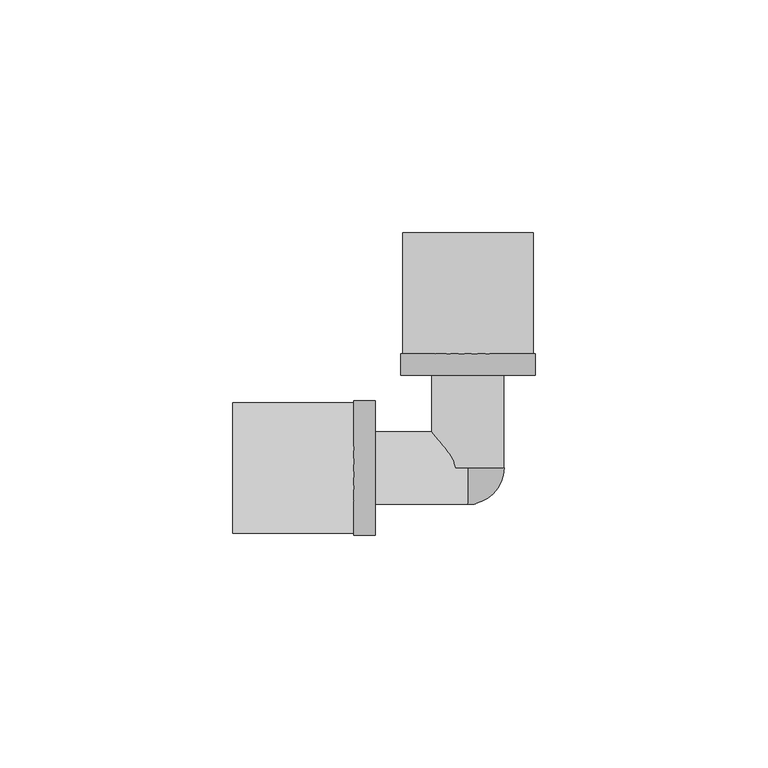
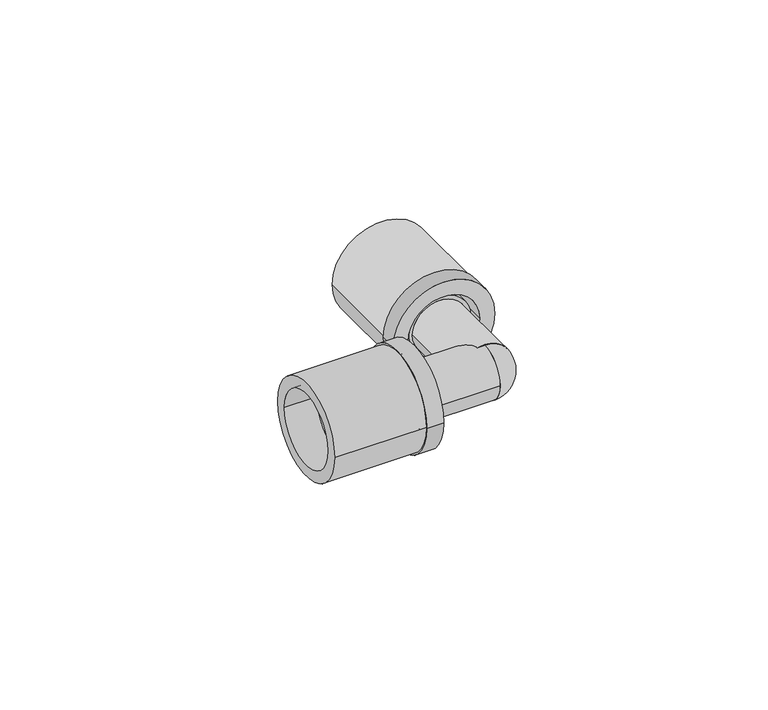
"""IFC4 building model written with IfcOpenShell, lengths in millimetres: pipe fitting geometry, FASTLOC_Corner LX : FSL C LX CZ."""

from ifc_helpers import new_model, si_unit, point, frame, origin, origin_2d, place, context, project, spatial, polyline, circle_curve, ellipse_curve, trimmed, segment, composite_curve, outline, extrude, source, transform, mapped, element, save
from ifc_brep_helpers import plane_surface, cylinder_surface, revolved_surface, advanced_brep


def pipe_fitting_e4b23f8c(model_context):
    return source(origin(), model_context, "Body", "SolidModel", [
        extrude(outline(composite_curve([segment(trimmed(circle_curve(origin_2d(), 14.0), [point((0.0, 14.0))], [point((0.0, -14.0))], False, "CARTESIAN"), True, "CONTINUOUS"), segment(trimmed(circle_curve(origin_2d(), 14.0), [point((0.0, -14.0))], [point((0.0, 14.0))], False, "CARTESIAN"), True, "CONTINUOUS")], self_intersect=False), holes=[composite_curve([segment(trimmed(circle_curve(origin_2d(), 10.7), [point((0.0, 10.7))], [point((0.0, -10.7))], True, "CARTESIAN"), True, "CONTINUOUS"), segment(trimmed(circle_curve(origin_2d(), 10.7), [point((0.0, -10.7))], [point((0.0, 10.7))], True, "CARTESIAN"), True, "CONTINUOUS")], self_intersect=False)]), frame((0.0, 24.6, 0.0), z_axis=(0.0, 1.0, 0.0), x_axis=(0.0, 0.0, 1.0)), (0.0, 0.0, 1.0), 26.0),
        advanced_brep(
        [(-14.5, 24.6, 0.0), (14.5, 24.6, 0.0), (14.5, 19.9, 0.0), (-14.5, 19.9, 0.0), (-11.85, 41.6, 0.0), (11.85, 41.6, 0.0), (11.85, 24.6, 0.0), (-11.85, 24.6, 0.0), (-10.15, 19.9, 0.0), (10.15, 19.9, 0.0), (10.15, 41.6, 0.0), (-10.15, 41.6, 0.0)],
        [
            (0, 1, circle_curve(frame((0.0, 24.6, 0.0), z_axis=(0.0, -1.0, 0.0), x_axis=(1.0, 0.0, 0.0)), 14.5)),
            (1, 2),
            (2, 3, circle_curve(frame((0.0, 19.9, 0.0), z_axis=(0.0, 1.0, 0.0), x_axis=(1.0, 0.0, 0.0)), 14.5)),
            (3, 0),
            (4, 5, circle_curve(frame((0.0, 41.6, 0.0), z_axis=(0.0, -1.0, 0.0), x_axis=(1.0, 0.0, 0.0)), 11.85)),
            (5, 6),
            (6, 7, circle_curve(frame((0.0, 24.6, 0.0), z_axis=(0.0, 1.0, 0.0), x_axis=(1.0, 0.0, 0.0)), 11.85)),
            (7, 4),
            (8, 9, circle_curve(frame((0.0, 19.9, 0.0), z_axis=(0.0, -1.0, 0.0), x_axis=(1.0, 0.0, 0.0)), 10.15)),
            (9, 10),
            (10, 11, circle_curve(frame((0.0, 41.6, 0.0), z_axis=(0.0, 1.0, 0.0), x_axis=(1.0, 0.0, 0.0)), 10.15)),
            (11, 8),
            (1, 0, circle_curve(frame((0.0, 24.6, 0.0), z_axis=(0.0, -1.0, 0.0), x_axis=(-1.0, 0.0, 0.0)), 14.5)),
            (3, 2, circle_curve(frame((0.0, 19.9, 0.0), z_axis=(0.0, 1.0, 0.0), x_axis=(-1.0, 0.0, 0.0)), 14.5)),
            (6, 7, circle_curve(frame((0.0, 24.6, 0.0), z_axis=(0.0, -1.0, 0.0), x_axis=(-1.0, 0.0, 0.0)), 11.85)),
            (5, 4, circle_curve(frame((0.0, 41.6, 0.0), z_axis=(0.0, -1.0, 0.0), x_axis=(-1.0, 0.0, 0.0)), 11.85)),
            (10, 11, circle_curve(frame((0.0, 41.6, 0.0), z_axis=(0.0, -1.0, 0.0), x_axis=(-1.0, 0.0, 0.0)), 10.15)),
            (9, 8, circle_curve(frame((0.0, 19.9, 0.0), z_axis=(0.0, -1.0, 0.0), x_axis=(-1.0, 0.0, 0.0)), 10.15)),
        ],
        [
            cylinder_surface(frame((0.0, 19.9, 0.0), z_axis=(0.0, 1.0, 0.0), x_axis=(1.0, 0.0, 0.0)), 14.5),
            cylinder_surface(frame((0.0, 19.9, 0.0), z_axis=(0.0, 1.0, 0.0), x_axis=(1.0, 0.0, 0.0)), 11.85),
            revolved_surface(polyline([(10.15, 41.6, 0.0), (10.15, 19.9, 0.0)]), (0.0, 19.9, 0.0), (0.0, 1.0, 0.0)),
            cylinder_surface(frame((0.0, 19.9, 0.0), z_axis=(0.0, 1.0, 0.0), x_axis=(-1.0, 0.0, 0.0)), 14.5),
            plane_surface(frame((0.0, 24.6, 0.0), z_axis=(0.0, 1.0, 0.0), x_axis=(-1.0, 0.0, 0.0))),
            cylinder_surface(frame((0.0, 19.9, 0.0), z_axis=(0.0, 1.0, 0.0), x_axis=(-1.0, 0.0, 0.0)), 11.85),
            plane_surface(frame((0.0, 41.6, 0.0), z_axis=(0.0, 1.0, 0.0), x_axis=(-1.0, 0.0, 0.0))),
            revolved_surface(polyline([(-10.15, 41.6, 0.0), (-10.15, 19.9, 0.0)]), (0.0, 19.9, 0.0), (0.0, 1.0, 0.0)),
            plane_surface(frame((0.0, 19.9, 0.0), z_axis=(0.0, -1.0, 0.0), x_axis=(-1.0, 0.0, 0.0))),
        ],
        [
            (0, [[1, 2, 3, 4]]),
            (1, [[5, 6, 7, 8]]),
            (2, [[9, 10, 11, 12]]),
            (3, [[13, -4, 14, -2]]),
            (4, [[-13, -1], [15, -7]]),
            (5, [[16, -8, -15, -6]]),
            (6, [[-16, -5], [17, -11]]),
            (7, [[18, -12, -17, -10]]),
            (8, [[-14, -3], [-18, -9]]),
        ],
    ),
        extrude(outline(composite_curve([segment(trimmed(circle_curve(origin_2d(), 14.0), [point((14.0, 0.0))], [point((-14.0, 0.0))], False, "CARTESIAN"), True, "CONTINUOUS"), segment(trimmed(circle_curve(origin_2d(), 14.0), [point((-14.0, 0.0))], [point((14.0, 0.0))], False, "CARTESIAN"), True, "CONTINUOUS")], self_intersect=False), holes=[composite_curve([segment(trimmed(circle_curve(origin_2d(), 10.7), [point((10.7, 0.0))], [point((-10.7, 0.0))], True, "CARTESIAN"), True, "CONTINUOUS"), segment(trimmed(circle_curve(origin_2d(), 10.7), [point((-10.7, 0.0))], [point((10.7, 0.0))], True, "CARTESIAN"), True, "CONTINUOUS")], self_intersect=False)]), frame((-50.6, 0.0, 0.0), z_axis=(1.0, 0.0, 0.0), x_axis=(0.0, 1.0, 0.0)), (0.0, 0.0, 1.0), 26.0),
        advanced_brep(
        [(-24.6, -14.5, 0.0), (-24.6, 14.5, 0.0), (-19.9, 14.5, 0.0), (-19.9, -14.5, 0.0), (-41.6, -11.85, 0.0), (-41.6, 11.85, 0.0), (-24.6, 11.85, 0.0), (-24.6, -11.85, 0.0), (-19.9, -10.15, 0.0), (-19.9, 10.15, 0.0), (-41.6, 10.15, 0.0), (-41.6, -10.15, 0.0)],
        [
            (0, 1, circle_curve(frame((-24.6, 0.0, 0.0), z_axis=(1.0, 0.0, 0.0), x_axis=(0.0, 1.0, 0.0)), 14.5)),
            (1, 2),
            (2, 3, circle_curve(frame((-19.9, 0.0, 0.0), z_axis=(-1.0, 0.0, 0.0), x_axis=(0.0, 1.0, 0.0)), 14.5)),
            (3, 0),
            (4, 5, circle_curve(frame((-41.6, 0.0, 0.0), z_axis=(1.0, 0.0, 0.0), x_axis=(0.0, 1.0, 0.0)), 11.85)),
            (5, 6),
            (6, 7, circle_curve(frame((-24.6, 0.0, 0.0), z_axis=(-1.0, 0.0, 0.0), x_axis=(0.0, 1.0, 0.0)), 11.85)),
            (7, 4),
            (8, 9, circle_curve(frame((-19.9, 0.0, 0.0), z_axis=(1.0, 0.0, 0.0), x_axis=(0.0, 1.0, 0.0)), 10.15)),
            (9, 10),
            (10, 11, circle_curve(frame((-41.6, 0.0, 0.0), z_axis=(-1.0, 0.0, 0.0), x_axis=(0.0, 1.0, 0.0)), 10.15)),
            (11, 8),
            (1, 0, circle_curve(frame((-24.6, 0.0, 0.0), z_axis=(1.0, 0.0, 0.0), x_axis=(0.0, -1.0, 0.0)), 14.5)),
            (3, 2, circle_curve(frame((-19.9, 0.0, 0.0), z_axis=(-1.0, 0.0, 0.0), x_axis=(0.0, -1.0, 0.0)), 14.5)),
            (6, 7, circle_curve(frame((-24.6, 0.0, 0.0), z_axis=(1.0, 0.0, 0.0), x_axis=(0.0, -1.0, 0.0)), 11.85)),
            (5, 4, circle_curve(frame((-41.6, 0.0, 0.0), z_axis=(1.0, 0.0, 0.0), x_axis=(0.0, -1.0, 0.0)), 11.85)),
            (10, 11, circle_curve(frame((-41.6, 0.0, 0.0), z_axis=(1.0, 0.0, 0.0), x_axis=(0.0, -1.0, 0.0)), 10.15)),
            (9, 8, circle_curve(frame((-19.9, 0.0, 0.0), z_axis=(1.0, 0.0, 0.0), x_axis=(0.0, -1.0, 0.0)), 10.15)),
        ],
        [
            cylinder_surface(frame((-19.9, 0.0, 0.0), z_axis=(-1.0, 0.0, 0.0), x_axis=(0.0, 1.0, 0.0)), 14.5),
            cylinder_surface(frame((-19.9, 0.0, 0.0), z_axis=(-1.0, 0.0, 0.0), x_axis=(0.0, 1.0, 0.0)), 11.85),
            revolved_surface(polyline([(-41.6, 10.15, 0.0), (-19.9, 10.15, 0.0)]), (-19.9, 0.0, 0.0), (-1.0, 0.0, 0.0)),
            cylinder_surface(frame((-19.9, 0.0, 0.0), z_axis=(-1.0, 0.0, 0.0), x_axis=(0.0, -1.0, 0.0)), 14.5),
            plane_surface(frame((-24.6, 0.0, 0.0), z_axis=(-1.0, 0.0, 0.0), x_axis=(0.0, -1.0, 0.0))),
            cylinder_surface(frame((-19.9, 0.0, 0.0), z_axis=(-1.0, 0.0, 0.0), x_axis=(0.0, -1.0, 0.0)), 11.85),
            plane_surface(frame((-41.6, 0.0, 0.0), z_axis=(-1.0, 0.0, 0.0), x_axis=(0.0, -1.0, 0.0))),
            revolved_surface(polyline([(-41.6, -10.15, 0.0), (-19.9, -10.15, 0.0)]), (-19.9, 0.0, 0.0), (-1.0, 0.0, 0.0)),
            plane_surface(frame((-19.9, 0.0, 0.0), z_axis=(1.0, 0.0, 0.0), x_axis=(0.0, -1.0, 0.0))),
        ],
        [
            (0, [[1, 2, 3, 4]]),
            (1, [[5, 6, 7, 8]]),
            (2, [[9, 10, 11, 12]]),
            (3, [[13, -4, 14, -2]]),
            (4, [[-13, -1], [15, -7]]),
            (5, [[16, -8, -15, -6]]),
            (6, [[-16, -5], [17, -11]]),
            (7, [[18, -12, -17, -10]]),
            (8, [[-14, -3], [-18, -9]]),
        ],
    ),
        advanced_brep(
        [(5.75, 42.0, 0.0), (-5.75, 42.0, 0.0), (-5.75, 0.0, 0.0), (5.75, 0.0, 0.0), (7.75, 24.6, 0.0), (-7.75, 24.6, 0.0), (-7.75, 42.0, 0.0), (7.75, 42.0, 0.0), (8.8, 21.9, 0.0), (-8.8, 21.9, 0.0), (-8.8, 24.6, 0.0), (8.8, 24.6, 0.0), (7.75, 0.0, 0.0), (-7.75, 0.0, 0.0), (-7.75, 21.9, 0.0), (7.75, 21.9, 0.0)],
        [
            (0, 1, circle_curve(frame((0.0, 42.0, 0.0), z_axis=(0.0, 1.0, 0.0), x_axis=(-1.0, 0.0, 0.0)), 5.75)),
            (1, 2),
            (2, 3, circle_curve(frame((0.0, 0.0, 0.0), z_axis=(0.0, -1.0, 0.0), x_axis=(-1.0, 0.0, 0.0)), 5.75)),
            (3, 0),
            (4, 5, circle_curve(frame((0.0, 24.6, 0.0), z_axis=(0.0, 1.0, 0.0), x_axis=(-1.0, 0.0, 0.0)), 7.75)),
            (5, 6),
            (6, 7, circle_curve(frame((0.0, 42.0, 0.0), z_axis=(0.0, -1.0, 0.0), x_axis=(-1.0, 0.0, 0.0)), 7.75)),
            (7, 4),
            (8, 9, circle_curve(frame((0.0, 21.9, 0.0), z_axis=(0.0, 1.0, 0.0), x_axis=(-1.0, 0.0, 0.0)), 8.8)),
            (9, 10),
            (10, 11, circle_curve(frame((0.0, 24.6, 0.0), z_axis=(0.0, -1.0, 0.0), x_axis=(-1.0, 0.0, 0.0)), 8.8)),
            (11, 8),
            (12, 13, circle_curve(frame((0.0, 0.0, 0.0), z_axis=(0.0, 1.0, 0.0), x_axis=(-1.0, 0.0, 0.0)), 7.75)),
            (13, 14),
            (14, 15, circle_curve(frame((0.0, 21.9, 0.0), z_axis=(0.0, -1.0, 0.0), x_axis=(-1.0, 0.0, 0.0)), 7.75)),
            (15, 12),
            (1, 0, circle_curve(frame((0.0, 42.0, 0.0), z_axis=(0.0, 1.0, 0.0), x_axis=(1.0, 0.0, 0.0)), 5.75)),
            (3, 2, circle_curve(frame((0.0, 0.0, 0.0), z_axis=(0.0, -1.0, 0.0), x_axis=(1.0, 0.0, 0.0)), 5.75)),
            (6, 7, circle_curve(frame((0.0, 42.0, 0.0), z_axis=(0.0, 1.0, 0.0), x_axis=(1.0, 0.0, 0.0)), 7.75)),
            (5, 4, circle_curve(frame((0.0, 24.6, 0.0), z_axis=(0.0, 1.0, 0.0), x_axis=(1.0, 0.0, 0.0)), 7.75)),
            (10, 11, circle_curve(frame((0.0, 24.6, 0.0), z_axis=(0.0, 1.0, 0.0), x_axis=(1.0, 0.0, 0.0)), 8.8)),
            (9, 8, circle_curve(frame((0.0, 21.9, 0.0), z_axis=(0.0, 1.0, 0.0), x_axis=(1.0, 0.0, 0.0)), 8.8)),
            (14, 15, circle_curve(frame((0.0, 21.9, 0.0), z_axis=(0.0, 1.0, 0.0), x_axis=(1.0, 0.0, 0.0)), 7.75)),
            (13, 12, circle_curve(frame((0.0, 0.0, 0.0), z_axis=(0.0, 1.0, 0.0), x_axis=(1.0, 0.0, 0.0)), 7.75)),
        ],
        [
            revolved_surface(polyline([(-5.75, 0.0, 0.0), (-5.75, 42.0, 0.0)]), (0.0, 0.0, 0.0), (0.0, -1.0, 0.0)),
            cylinder_surface(frame((0.0, 0.0, 0.0), z_axis=(0.0, -1.0, 0.0), x_axis=(-1.0, 0.0, 0.0)), 7.75),
            cylinder_surface(frame((0.0, 0.0, 0.0), z_axis=(0.0, -1.0, 0.0), x_axis=(-1.0, 0.0, 0.0)), 8.8),
            revolved_surface(polyline([(5.75, 0.0, 0.0), (5.75, 42.0, 0.0)]), (0.0, 0.0, 0.0), (0.0, -1.0, 0.0)),
            plane_surface(frame((0.0, 42.0, 0.0), z_axis=(0.0, 1.0, 0.0), x_axis=(1.0, 0.0, 0.0))),
            cylinder_surface(frame((0.0, 0.0, 0.0), z_axis=(0.0, -1.0, 0.0), x_axis=(1.0, 0.0, 0.0)), 7.75),
            plane_surface(frame((0.0, 24.6, 0.0), z_axis=(0.0, 1.0, 0.0), x_axis=(1.0, 0.0, 0.0))),
            cylinder_surface(frame((0.0, 0.0, 0.0), z_axis=(0.0, -1.0, 0.0), x_axis=(1.0, 0.0, 0.0)), 8.8),
            plane_surface(frame((0.0, 21.9, 0.0), z_axis=(0.0, -1.0, 0.0), x_axis=(1.0, 0.0, 0.0))),
            plane_surface(frame((0.0, 0.0, 0.0), z_axis=(0.0, -1.0, 0.0), x_axis=(1.0, 0.0, 0.0))),
        ],
        [
            (0, [[1, 2, 3, 4]]),
            (1, [[5, 6, 7, 8]]),
            (2, [[9, 10, 11, 12]]),
            (1, [[13, 14, 15, 16]]),
            (3, [[17, -4, 18, -2]]),
            (4, [[19, -7], [-17, -1]]),
            (5, [[20, -8, -19, -6]]),
            (6, [[21, -11], [-20, -5]]),
            (7, [[22, -12, -21, -10]]),
            (8, [[-22, -9], [23, -15]]),
            (5, [[24, -16, -23, -14]]),
            (9, [[-24, -13], [-18, -3]]),
        ],
    ),
        advanced_brep(
        [(-42.0, 5.75, 0.0), (-42.0, -5.75, 0.0), (0.0, -5.75, 0.0), (0.0, 5.75, 0.0), (-24.6, 7.75, 0.0), (-24.6, -7.75, 0.0), (-42.0, -7.75, 0.0), (-42.0, 7.75, 0.0), (-21.9, 8.8, 0.0), (-21.9, -8.8, 0.0), (-24.6, -8.8, 0.0), (-24.6, 8.8, 0.0), (0.0, 7.75, 0.0), (0.0, -7.75, 0.0), (-21.9, -7.75, 0.0), (-21.9, 7.75, 0.0)],
        [
            (0, 1, circle_curve(frame((-42.0, 0.0, 0.0), z_axis=(-1.0, 0.0, 0.0), x_axis=(0.0, -1.0, 0.0)), 5.75)),
            (1, 2),
            (2, 3, circle_curve(frame((0.0, 0.0, 0.0), z_axis=(1.0, 0.0, 0.0), x_axis=(0.0, -1.0, 0.0)), 5.75)),
            (3, 0),
            (4, 5, circle_curve(frame((-24.6, 0.0, 0.0), z_axis=(-1.0, 0.0, 0.0), x_axis=(0.0, -1.0, 0.0)), 7.75)),
            (5, 6),
            (6, 7, circle_curve(frame((-42.0, 0.0, 0.0), z_axis=(1.0, 0.0, 0.0), x_axis=(0.0, -1.0, 0.0)), 7.75)),
            (7, 4),
            (8, 9, circle_curve(frame((-21.9, 0.0, 0.0), z_axis=(-1.0, 0.0, 0.0), x_axis=(0.0, -1.0, 0.0)), 8.8)),
            (9, 10),
            (10, 11, circle_curve(frame((-24.6, 0.0, 0.0), z_axis=(1.0, 0.0, 0.0), x_axis=(0.0, -1.0, 0.0)), 8.8)),
            (11, 8),
            (12, 13, circle_curve(frame((0.0, 0.0, 0.0), z_axis=(-1.0, 0.0, 0.0), x_axis=(0.0, -1.0, 0.0)), 7.75)),
            (13, 14),
            (14, 15, circle_curve(frame((-21.9, 0.0, 0.0), z_axis=(1.0, 0.0, 0.0), x_axis=(0.0, -1.0, 0.0)), 7.75)),
            (15, 12),
            (1, 0, circle_curve(frame((-42.0, 0.0, 0.0), z_axis=(-1.0, 0.0, 0.0), x_axis=(0.0, 1.0, 0.0)), 5.75)),
            (3, 2, circle_curve(frame((0.0, 0.0, 0.0), z_axis=(1.0, 0.0, 0.0), x_axis=(0.0, 1.0, 0.0)), 5.75)),
            (6, 7, circle_curve(frame((-42.0, 0.0, 0.0), z_axis=(-1.0, 0.0, 0.0), x_axis=(0.0, 1.0, 0.0)), 7.75)),
            (5, 4, circle_curve(frame((-24.6, 0.0, 0.0), z_axis=(-1.0, 0.0, 0.0), x_axis=(0.0, 1.0, 0.0)), 7.75)),
            (10, 11, circle_curve(frame((-24.6, 0.0, 0.0), z_axis=(-1.0, 0.0, 0.0), x_axis=(0.0, 1.0, 0.0)), 8.8)),
            (9, 8, circle_curve(frame((-21.9, 0.0, 0.0), z_axis=(-1.0, 0.0, 0.0), x_axis=(0.0, 1.0, 0.0)), 8.8)),
            (14, 15, circle_curve(frame((-21.9, 0.0, 0.0), z_axis=(-1.0, 0.0, 0.0), x_axis=(0.0, 1.0, 0.0)), 7.75)),
            (13, 12, circle_curve(frame((0.0, 0.0, 0.0), z_axis=(-1.0, 0.0, 0.0), x_axis=(0.0, 1.0, 0.0)), 7.75)),
        ],
        [
            revolved_surface(polyline([(0.0, -5.75, 0.0), (-42.0, -5.75, 0.0)]), (0.0, 0.0, 0.0), (1.0, 0.0, 0.0)),
            cylinder_surface(frame((0.0, 0.0, 0.0), z_axis=(1.0, 0.0, 0.0), x_axis=(0.0, -1.0, 0.0)), 7.75),
            cylinder_surface(frame((0.0, 0.0, 0.0), z_axis=(1.0, 0.0, 0.0), x_axis=(0.0, -1.0, 0.0)), 8.8),
            revolved_surface(polyline([(0.0, 5.75, 0.0), (-42.0, 5.75, 0.0)]), (0.0, 0.0, 0.0), (1.0, 0.0, 0.0)),
            plane_surface(frame((-42.0, 0.0, 0.0), z_axis=(-1.0, 0.0, 0.0), x_axis=(0.0, 1.0, 0.0))),
            cylinder_surface(frame((0.0, 0.0, 0.0), z_axis=(1.0, 0.0, 0.0), x_axis=(0.0, 1.0, 0.0)), 7.75),
            plane_surface(frame((-24.6, 0.0, 0.0), z_axis=(-1.0, 0.0, 0.0), x_axis=(0.0, 1.0, 0.0))),
            cylinder_surface(frame((0.0, 0.0, 0.0), z_axis=(1.0, 0.0, 0.0), x_axis=(0.0, 1.0, 0.0)), 8.8),
            plane_surface(frame((-21.9, 0.0, 0.0), z_axis=(1.0, 0.0, 0.0), x_axis=(0.0, 1.0, 0.0))),
            plane_surface(frame((0.0, 0.0, 0.0), z_axis=(1.0, 0.0, 0.0), x_axis=(0.0, 1.0, 0.0))),
        ],
        [
            (0, [[1, 2, 3, 4]]),
            (1, [[5, 6, 7, 8]]),
            (2, [[9, 10, 11, 12]]),
            (1, [[13, 14, 15, 16]]),
            (3, [[17, -4, 18, -2]]),
            (4, [[19, -7], [-17, -1]]),
            (5, [[20, -8, -19, -6]]),
            (6, [[21, -11], [-20, -5]]),
            (7, [[22, -12, -21, -10]]),
            (8, [[-22, -9], [23, -15]]),
            (5, [[24, -16, -23, -14]]),
            (9, [[-24, -13], [-18, -3]]),
        ],
    ),
        advanced_brep(
        [(0.0, 0.0, 7.8), (0.0, 0.0, 0.0), (0.0, -7.8, 0.0), (0.0, 0.0, -7.8)],
        [
            (0, 1),
            (1, 2),
            (2, 0, circle_curve(frame((0.0, 0.0, 0.0), z_axis=(-1.0, 0.0, 0.0), x_axis=(0.0, 0.0, 1.0)), 7.8)),
            (3, 2, circle_curve(frame((0.0, 0.0, 0.0), z_axis=(-1.0, 0.0, 0.0), x_axis=(0.0, 0.0, -1.0)), 7.8)),
            (1, 3),
            (0, 3, circle_curve(frame((0.0, 0.0, 0.0), z_axis=(0.0, 1.0, 0.0), x_axis=(0.0, 0.0, 1.0)), 7.8)),
        ],
        [
            plane_surface(frame((0.0, 0.0, 0.0), z_axis=(-1.0, 0.0, 0.0), x_axis=(0.0, 0.0, 1.0))),
            plane_surface(frame((0.0, 0.0, 0.0), z_axis=(-1.0, 0.0, 0.0), x_axis=(0.0, 0.0, -1.0))),
            plane_surface(frame((0.0, 0.0, 0.0), z_axis=(0.0, 1.0, 0.0), x_axis=(0.0, 0.0, 1.0))),
            revolved_surface(trimmed(ellipse_curve(frame((0.0, 0.0, 0.0), z_axis=(-1.0, 0.0, 0.0), x_axis=(0.0, 0.0, 1.0)), 7.8, 7.8), [point((0.0, -7.8, 0.0))], [point((0.0, 0.0, 7.8))], True, "CARTESIAN"), (0.0, 0.0, 0.0), (0.0, 1.0, 0.0)),
        ],
        [
            (0, [[1, 2, 3]]),
            (1, [[4, -2, 5]]),
            (2, [[-1, 6, -5]]),
            (3, [[-6, -3, -4]]),
        ],
    ),
    ])


if __name__ == "__main__":
    model = new_model("IFC4")
    model_context = context("Model", 3, world=origin())
    ifc_project = project(units=[si_unit("LENGTHUNIT", "METRE", prefix="MILLI")], contexts=[model_context])
    site = spatial("IfcSite", under=ifc_project)
    building = spatial("IfcBuilding", under=site)
    placement = place(None, origin())
    pipe_fitting_shape = pipe_fitting_e4b23f8c(model_context)
    element("IfcPipeFitting", 1, ObjectType="FASTLOC_Corner LX : FSL C LX CZ", at=placement, inside=building, context=model_context, shape_type="MappedRepresentation", body=[
        mapped(pipe_fitting_shape, transform((0.0, 0.0, 0.0), x_axis=(1.0, 0.0, 0.0), y_axis=(0.0, 1.0, 0.0), z_axis=(0.0, 0.0, 1.0))),
    ])
    save(model, "model.ifc")
